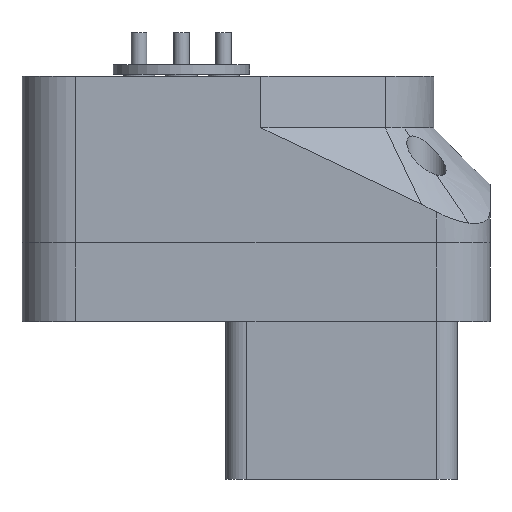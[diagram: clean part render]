
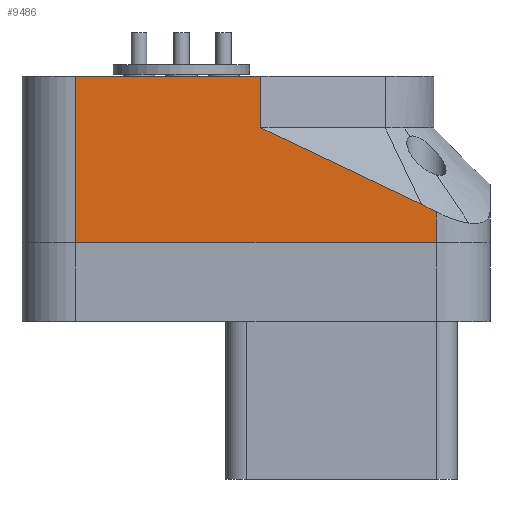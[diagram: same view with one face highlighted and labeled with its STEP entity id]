
A CAD part, front view. The second image highlights one B-rep face of the part: STEP entity #9486.
In plain terms, the highlighted planar face has unit normal (0, -1, 0).
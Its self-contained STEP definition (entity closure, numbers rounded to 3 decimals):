
#1150=B_SPLINE_CURVE_WITH_KNOTS('',3,(#48409,#48410,#48411,#48412,#48413,
#48414),.UNSPECIFIED.,.F.,.F.,(4,2,4),(2.111,2.177,
2.362),.UNSPECIFIED.);
#2265=FACE_OUTER_BOUND('',#2882,.T.);
#2882=EDGE_LOOP('',(#8623,#8624,#8625,#8626,#8627,#8628,#8629));
#3234=LINE('',#48461,#3569);
#3240=LINE('',#48476,#3575);
#3257=LINE('',#48518,#3592);
#3262=LINE('',#48531,#3597);
#3263=LINE('',#48533,#3598);
#3264=LINE('',#48534,#3599);
#3569=VECTOR('',#11714,10.);
#3575=VECTOR('',#11732,10.);
#3592=VECTOR('',#11777,10.);
#3597=VECTOR('',#11790,10.);
#3598=VECTOR('',#11791,10.);
#3599=VECTOR('',#11792,10.);
#4476=VERTEX_POINT('',#48406);
#4477=VERTEX_POINT('',#48408);
#4481=VERTEX_POINT('',#48460);
#4484=VERTEX_POINT('',#48474);
#4495=VERTEX_POINT('',#48516);
#4499=VERTEX_POINT('',#48530);
#4500=VERTEX_POINT('',#48532);
#5858=EDGE_CURVE('',#4476,#4477,#1150,.T.);
#5864=EDGE_CURVE('',#4481,#4476,#3234,.T.);
#5872=EDGE_CURVE('',#4481,#4484,#3240,.T.);
#5893=EDGE_CURVE('',#4495,#4477,#3257,.T.);
#5899=EDGE_CURVE('',#4499,#4484,#3262,.T.);
#5900=EDGE_CURVE('',#4500,#4499,#3263,.T.);
#5901=EDGE_CURVE('',#4500,#4495,#3264,.T.);
#8623=ORIENTED_EDGE('',*,*,#5872,.T.);
#8624=ORIENTED_EDGE('',*,*,#5899,.F.);
#8625=ORIENTED_EDGE('',*,*,#5900,.F.);
#8626=ORIENTED_EDGE('',*,*,#5901,.T.);
#8627=ORIENTED_EDGE('',*,*,#5893,.T.);
#8628=ORIENTED_EDGE('',*,*,#5858,.F.);
#8629=ORIENTED_EDGE('',*,*,#5864,.F.);
#8938=PLANE('',#10230);
#9486=ADVANCED_FACE('',(#2265),#8938,.T.);
#10230=AXIS2_PLACEMENT_3D('',#48529,#11788,#11789);
#11714=DIRECTION('',(0.903,0.,-0.429));
#11732=DIRECTION('',(0.,0.,1.));
#11777=DIRECTION('',(0.,0.,1.));
#11788=DIRECTION('center_axis',(0.,-1.,0.));
#11789=DIRECTION('ref_axis',(1.,0.,0.));
#11790=DIRECTION('',(1.,0.,0.));
#11791=DIRECTION('',(0.,0.,1.));
#11792=DIRECTION('',(1.,0.,0.));
#48406=CARTESIAN_POINT('',(12.233,-22.653,7.885));
#48408=CARTESIAN_POINT('',(14.478,-22.653,6.746));
#48409=CARTESIAN_POINT('Ctrl Pts',(12.233,-22.653,7.885));
#48410=CARTESIAN_POINT('Ctrl Pts',(12.432,-22.653,7.791));
#48411=CARTESIAN_POINT('Ctrl Pts',(12.631,-22.653,7.694));
#48412=CARTESIAN_POINT('Ctrl Pts',(13.382,-22.653,7.324));
#48413=CARTESIAN_POINT('Ctrl Pts',(13.932,-22.653,7.04));
#48414=CARTESIAN_POINT('Ctrl Pts',(14.478,-22.653,6.746));
#48460=CARTESIAN_POINT('',(-12.279,-22.653,19.532));
#48461=CARTESIAN_POINT('',(-15.798,-22.653,21.204));
#48474=CARTESIAN_POINT('',(-12.279,-22.653,27.432));
#48476=CARTESIAN_POINT('',(-12.279,-22.653,2.032));
#48516=CARTESIAN_POINT('',(14.478,-22.653,2.032));
#48518=CARTESIAN_POINT('',(14.478,-22.653,2.032));
#48529=CARTESIAN_POINT('Origin',(-40.552,-22.653,2.032));
#48530=CARTESIAN_POINT('',(-40.552,-22.653,27.432));
#48531=CARTESIAN_POINT('',(-40.552,-22.653,27.432));
#48532=CARTESIAN_POINT('',(-40.552,-22.653,2.032));
#48533=CARTESIAN_POINT('',(-40.552,-22.653,2.032));
#48534=CARTESIAN_POINT('',(-40.552,-22.653,2.032));
